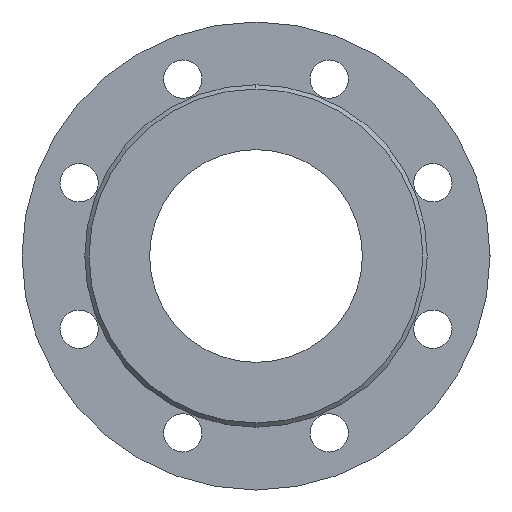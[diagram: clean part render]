
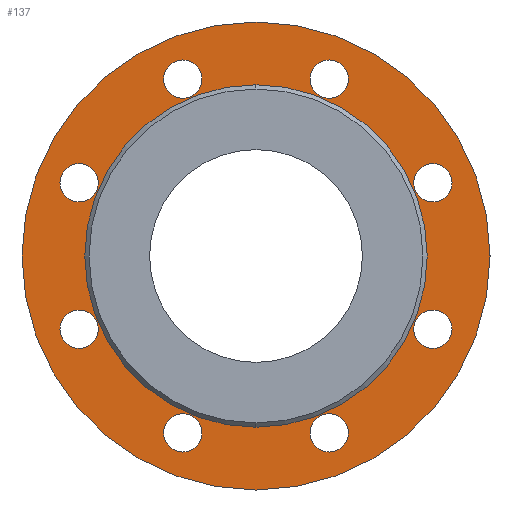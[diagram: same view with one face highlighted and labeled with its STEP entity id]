
A CAD part, left-side view. The second image highlights one B-rep face of the part: STEP entity #137.
In plain terms, the highlighted planar face has unit normal (-1, 0, 0).
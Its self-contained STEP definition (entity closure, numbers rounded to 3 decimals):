
#137=ADVANCED_FACE('',(#302,#303,#304,#305,#306,#307,#308,#309,#310,#311),#312,.F.);
#302=FACE_BOUND('',#564,.T.);
#303=FACE_BOUND('',#565,.T.);
#304=FACE_BOUND('',#566,.T.);
#305=FACE_BOUND('',#567,.T.);
#306=FACE_BOUND('',#568,.T.);
#307=FACE_BOUND('',#569,.T.);
#308=FACE_BOUND('',#570,.T.);
#309=FACE_BOUND('',#571,.T.);
#310=FACE_BOUND('',#572,.T.);
#311=FACE_OUTER_BOUND('',#573,.T.);
#312=PLANE('',#574);
#564=EDGE_LOOP('',(#813,#814));
#565=EDGE_LOOP('',(#815,#816));
#566=EDGE_LOOP('',(#817,#818));
#567=EDGE_LOOP('',(#819,#820));
#568=EDGE_LOOP('',(#821,#822));
#569=EDGE_LOOP('',(#823,#824));
#570=EDGE_LOOP('',(#825,#826));
#571=EDGE_LOOP('',(#827,#828));
#572=EDGE_LOOP('',(#829,#830));
#573=EDGE_LOOP('',(#831,#832));
#574=AXIS2_PLACEMENT_3D('',#833,#834,#835);
#813=ORIENTED_EDGE('',*,*,#1369,.T.);
#814=ORIENTED_EDGE('',*,*,#1360,.T.);
#815=ORIENTED_EDGE('',*,*,#1370,.T.);
#816=ORIENTED_EDGE('',*,*,#1371,.T.);
#817=ORIENTED_EDGE('',*,*,#1372,.T.);
#818=ORIENTED_EDGE('',*,*,#1373,.T.);
#819=ORIENTED_EDGE('',*,*,#1374,.T.);
#820=ORIENTED_EDGE('',*,*,#1375,.T.);
#821=ORIENTED_EDGE('',*,*,#1376,.T.);
#822=ORIENTED_EDGE('',*,*,#1377,.T.);
#823=ORIENTED_EDGE('',*,*,#1378,.T.);
#824=ORIENTED_EDGE('',*,*,#1379,.T.);
#825=ORIENTED_EDGE('',*,*,#1355,.T.);
#826=ORIENTED_EDGE('',*,*,#1380,.T.);
#827=ORIENTED_EDGE('',*,*,#1381,.T.);
#828=ORIENTED_EDGE('',*,*,#1382,.T.);
#829=ORIENTED_EDGE('',*,*,#1383,.T.);
#830=ORIENTED_EDGE('',*,*,#1384,.T.);
#831=ORIENTED_EDGE('',*,*,#1385,.F.);
#832=ORIENTED_EDGE('',*,*,#1386,.F.);
#833=CARTESIAN_POINT('',(2.0,0.0,0.));
#834=DIRECTION('',(1.0,0.0,0.));
#835=DIRECTION('',(0.,0.0,-1.0));
#1355=EDGE_CURVE('',#1576,#1580,#1582,.T.);
#1360=EDGE_CURVE('',#1585,#1589,#1591,.T.);
#1369=EDGE_CURVE('',#1589,#1585,#1604,.T.);
#1370=EDGE_CURVE('',#1605,#1606,#1607,.T.);
#1371=EDGE_CURVE('',#1606,#1605,#1608,.T.);
#1372=EDGE_CURVE('',#1609,#1610,#1611,.T.);
#1373=EDGE_CURVE('',#1610,#1609,#1612,.T.);
#1374=EDGE_CURVE('',#1613,#1614,#1615,.T.);
#1375=EDGE_CURVE('',#1614,#1613,#1616,.T.);
#1376=EDGE_CURVE('',#1617,#1618,#1619,.T.);
#1377=EDGE_CURVE('',#1618,#1617,#1620,.T.);
#1378=EDGE_CURVE('',#1621,#1622,#1623,.T.);
#1379=EDGE_CURVE('',#1622,#1621,#1624,.T.);
#1380=EDGE_CURVE('',#1580,#1576,#1625,.T.);
#1381=EDGE_CURVE('',#1626,#1627,#1628,.T.);
#1382=EDGE_CURVE('',#1627,#1626,#1629,.T.);
#1383=EDGE_CURVE('',#1630,#1631,#1632,.T.);
#1384=EDGE_CURVE('',#1631,#1630,#1633,.T.);
#1385=EDGE_CURVE('',#1634,#1635,#1636,.T.);
#1386=EDGE_CURVE('',#1635,#1634,#1637,.T.);
#1576=VERTEX_POINT('',#1903);
#1580=VERTEX_POINT('',#1908);
#1582=CIRCLE('',#1911,9.0);
#1585=VERTEX_POINT('',#1914);
#1589=VERTEX_POINT('',#1919);
#1591=CIRCLE('',#1922,50.0);
#1604=CIRCLE('',#1937,50.0);
#1605=VERTEX_POINT('',#1938);
#1606=VERTEX_POINT('',#1939);
#1607=CIRCLE('',#1940,9.0);
#1608=CIRCLE('',#1941,9.0);
#1609=VERTEX_POINT('',#1942);
#1610=VERTEX_POINT('',#1943);
#1611=CIRCLE('',#1944,9.0);
#1612=CIRCLE('',#1945,9.0);
#1613=VERTEX_POINT('',#1946);
#1614=VERTEX_POINT('',#1947);
#1615=CIRCLE('',#1948,9.0);
#1616=CIRCLE('',#1949,9.0);
#1617=VERTEX_POINT('',#1950);
#1618=VERTEX_POINT('',#1951);
#1619=CIRCLE('',#1952,9.0);
#1620=CIRCLE('',#1953,9.0);
#1621=VERTEX_POINT('',#1954);
#1622=VERTEX_POINT('',#1955);
#1623=CIRCLE('',#1956,9.0);
#1624=CIRCLE('',#1957,9.0);
#1625=CIRCLE('',#1958,9.0);
#1626=VERTEX_POINT('',#1959);
#1627=VERTEX_POINT('',#1960);
#1628=CIRCLE('',#1961,9.0);
#1629=CIRCLE('',#1962,9.0);
#1630=VERTEX_POINT('',#1963);
#1631=VERTEX_POINT('',#1964);
#1632=CIRCLE('',#1965,9.0);
#1633=CIRCLE('',#1966,9.0);
#1634=VERTEX_POINT('',#1967);
#1635=VERTEX_POINT('',#1968);
#1636=CIRCLE('',#1969,110.0);
#1637=CIRCLE('',#1970,110.0);
#1903=CARTESIAN_POINT('',(2.0,34.442,74.149));
#1908=CARTESIAN_POINT('',(2.,34.442,92.149));
#1911=AXIS2_PLACEMENT_3D('',#2285,#2286,#2287);
#1914=CARTESIAN_POINT('',(2.0,0.,-50.0));
#1919=CARTESIAN_POINT('',(2.0,0.,50.0));
#1922=AXIS2_PLACEMENT_3D('',#2293,#2294,#2295);
#1937=AXIS2_PLACEMENT_3D('',#2304,#2305,#2306);
#1938=CARTESIAN_POINT('',(2.0,83.149,-43.442));
#1939=CARTESIAN_POINT('',(2.0,83.149,-25.442));
#1940=AXIS2_PLACEMENT_3D('',#2307,#2308,#2309);
#1941=AXIS2_PLACEMENT_3D('',#2310,#2311,#2312);
#1942=CARTESIAN_POINT('',(2.0,34.442,-92.149));
#1943=CARTESIAN_POINT('',(2.0,34.442,-74.149));
#1944=AXIS2_PLACEMENT_3D('',#2313,#2314,#2315);
#1945=AXIS2_PLACEMENT_3D('',#2316,#2317,#2318);
#1946=CARTESIAN_POINT('',(2.0,-83.149,25.442));
#1947=CARTESIAN_POINT('',(2.0,-83.149,43.442));
#1948=AXIS2_PLACEMENT_3D('',#2319,#2320,#2321);
#1949=AXIS2_PLACEMENT_3D('',#2322,#2323,#2324);
#1950=CARTESIAN_POINT('',(2.0,-34.442,74.149));
#1951=CARTESIAN_POINT('',(2.,-34.442,92.149));
#1952=AXIS2_PLACEMENT_3D('',#2325,#2326,#2327);
#1953=AXIS2_PLACEMENT_3D('',#2328,#2329,#2330);
#1954=CARTESIAN_POINT('',(2.0,83.149,25.442));
#1955=CARTESIAN_POINT('',(2.0,83.149,43.442));
#1956=AXIS2_PLACEMENT_3D('',#2331,#2332,#2333);
#1957=AXIS2_PLACEMENT_3D('',#2334,#2335,#2336);
#1958=AXIS2_PLACEMENT_3D('',#2337,#2338,#2339);
#1959=CARTESIAN_POINT('',(2.0,-83.149,-43.442));
#1960=CARTESIAN_POINT('',(2.0,-83.149,-25.442));
#1961=AXIS2_PLACEMENT_3D('',#2340,#2341,#2342);
#1962=AXIS2_PLACEMENT_3D('',#2343,#2344,#2345);
#1963=CARTESIAN_POINT('',(2.0,-34.442,-92.149));
#1964=CARTESIAN_POINT('',(2.0,-34.442,-74.149));
#1965=AXIS2_PLACEMENT_3D('',#2346,#2347,#2348);
#1966=AXIS2_PLACEMENT_3D('',#2349,#2350,#2351);
#1967=CARTESIAN_POINT('',(2.,0.0,-110.0));
#1968=CARTESIAN_POINT('',(2.,0.,110.0));
#1969=AXIS2_PLACEMENT_3D('',#2352,#2353,#2354);
#1970=AXIS2_PLACEMENT_3D('',#2355,#2356,#2357);
#2285=CARTESIAN_POINT('',(2.,34.442,83.149));
#2286=DIRECTION('',(1.0,0.0,0.));
#2287=DIRECTION('',(0.,0.0,-1.0));
#2293=CARTESIAN_POINT('',(2.0,0.0,0.));
#2294=DIRECTION('',(1.0,0.0,0.));
#2295=DIRECTION('',(0.,0.0,-1.0));
#2304=CARTESIAN_POINT('',(2.0,0.0,0.));
#2305=DIRECTION('',(1.0,0.0,0.));
#2306=DIRECTION('',(0.,0.0,-1.0));
#2307=CARTESIAN_POINT('',(2.0,83.149,-34.442));
#2308=DIRECTION('',(1.0,0.0,0.));
#2309=DIRECTION('',(0.,0.0,-1.0));
#2310=CARTESIAN_POINT('',(2.0,83.149,-34.442));
#2311=DIRECTION('',(1.0,0.0,0.));
#2312=DIRECTION('',(0.,0.0,-1.0));
#2313=CARTESIAN_POINT('',(2.0,34.442,-83.149));
#2314=DIRECTION('',(1.0,0.0,0.));
#2315=DIRECTION('',(0.,0.0,-1.0));
#2316=CARTESIAN_POINT('',(2.0,34.442,-83.149));
#2317=DIRECTION('',(1.0,0.0,0.));
#2318=DIRECTION('',(0.,0.0,-1.0));
#2319=CARTESIAN_POINT('',(2.0,-83.149,34.442));
#2320=DIRECTION('',(1.0,0.0,0.));
#2321=DIRECTION('',(0.,0.0,-1.0));
#2322=CARTESIAN_POINT('',(2.0,-83.149,34.442));
#2323=DIRECTION('',(1.0,0.0,0.));
#2324=DIRECTION('',(0.,0.0,-1.0));
#2325=CARTESIAN_POINT('',(2.,-34.442,83.149));
#2326=DIRECTION('',(1.0,0.0,0.));
#2327=DIRECTION('',(0.,0.0,-1.0));
#2328=CARTESIAN_POINT('',(2.,-34.442,83.149));
#2329=DIRECTION('',(1.0,0.0,0.));
#2330=DIRECTION('',(0.,0.0,-1.0));
#2331=CARTESIAN_POINT('',(2.0,83.149,34.442));
#2332=DIRECTION('',(1.0,0.0,0.));
#2333=DIRECTION('',(0.,0.0,-1.0));
#2334=CARTESIAN_POINT('',(2.0,83.149,34.442));
#2335=DIRECTION('',(1.0,0.0,0.));
#2336=DIRECTION('',(0.,0.0,-1.0));
#2337=CARTESIAN_POINT('',(2.,34.442,83.149));
#2338=DIRECTION('',(1.0,0.0,0.));
#2339=DIRECTION('',(0.,0.0,-1.0));
#2340=CARTESIAN_POINT('',(2.0,-83.149,-34.442));
#2341=DIRECTION('',(1.0,0.0,0.));
#2342=DIRECTION('',(0.,0.0,-1.0));
#2343=CARTESIAN_POINT('',(2.0,-83.149,-34.442));
#2344=DIRECTION('',(1.0,0.0,0.));
#2345=DIRECTION('',(0.,0.0,-1.0));
#2346=CARTESIAN_POINT('',(2.0,-34.442,-83.149));
#2347=DIRECTION('',(1.0,0.0,0.));
#2348=DIRECTION('',(0.,0.0,-1.0));
#2349=CARTESIAN_POINT('',(2.0,-34.442,-83.149));
#2350=DIRECTION('',(1.0,0.0,0.));
#2351=DIRECTION('',(0.,0.0,-1.0));
#2352=CARTESIAN_POINT('',(2.0,0.0,0.));
#2353=DIRECTION('',(1.0,0.0,0.));
#2354=DIRECTION('',(0.,0.0,-1.0));
#2355=CARTESIAN_POINT('',(2.0,0.0,0.));
#2356=DIRECTION('',(1.0,0.0,0.));
#2357=DIRECTION('',(0.,0.0,-1.0));
